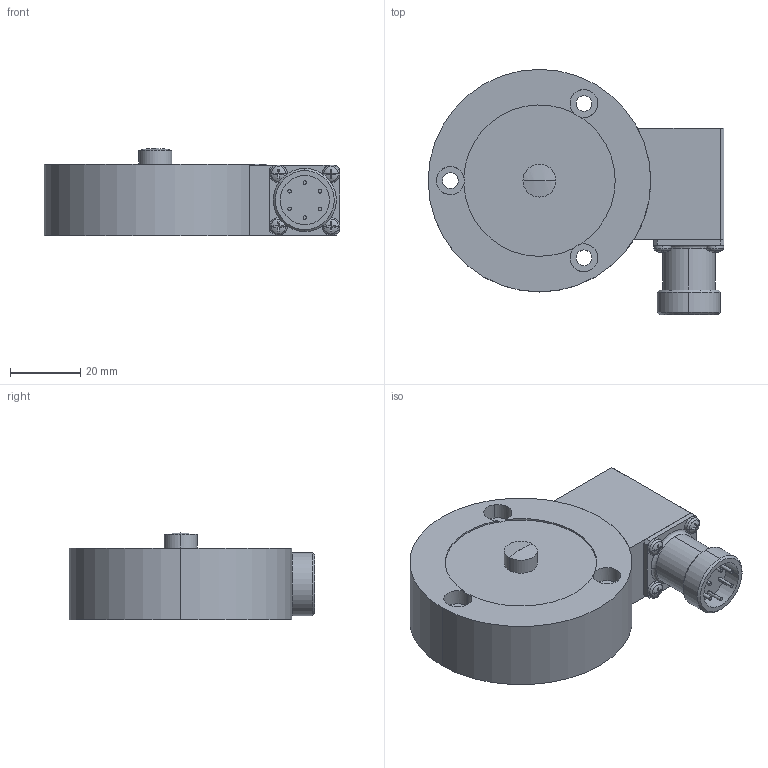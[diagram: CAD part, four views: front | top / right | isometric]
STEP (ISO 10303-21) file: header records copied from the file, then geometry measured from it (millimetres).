
FILE_DESCRIPTION(('STEP AP203'),'1');
FILE_NAME('C:/TPO v2/SharedFS/Outgoing/burster_85043-0_02_9ksc7pmelw65u96bvwcrwzdrg.stp','2013-08-27T13:55:10',('TraceParts'),('TraceParts S.A.'),'XStep 1.0',' ',' ');
FILE_SCHEMA(('CONFIG_CONTROL_DESIGN'));
Length unit declared in the file: millimetre
Products named in the file (1): 1
Bounding box: 84.35 x 69.95 x 24.9 mm (x, y, z)
Volume: 79840.8 mm3; surface area: 15732.8 mm2
Topology: 1 solids, 1 shells, 162 faces, 402 edges, 253 vertices
Faces by surface type: plane 88, cylinder 42, torus 18, cone 12, sphere 2
Entity records: 5258 total; most frequent: CARTESIAN_POINT 1332, DIRECTION 836, ORIENTED_EDGE 800, EDGE_CURVE 400, AXIS2_PLACEMENT_3D 333, VERTEX_POINT 253, EDGE_LOOP 181, CIRCLE 170
